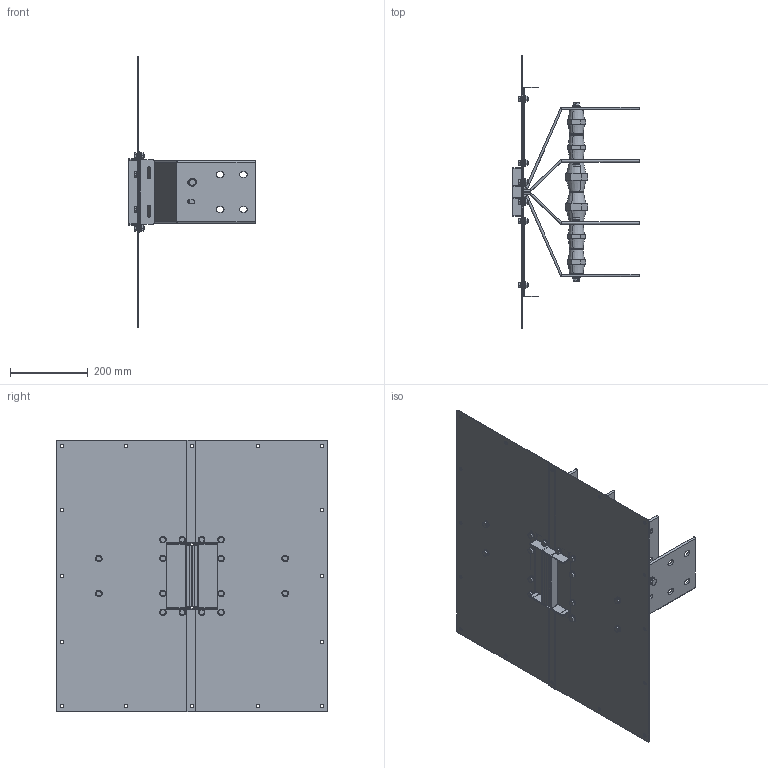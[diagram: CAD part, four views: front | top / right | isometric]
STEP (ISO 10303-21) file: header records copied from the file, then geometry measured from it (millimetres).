
FILE_DESCRIPTION(('CATIA V5 STEP','CAx-IF Rec.Pracs.--- Model Styling and Organization---1.5--- 2016-08-15','CAx-IF Rec.Pracs.---Supplemental Geometry---1.0---2011-11-01','CAx-IF Rec.Pracs.--- Composite Materials ---1.1---2010-07-15'),'2;1');
FILE_NAME('K:\COSCN 2011\32372311_RiduzioneSezioniBarre\03_Studio\__Modelli semplificati\XCP_UB semplificati per studi\XCP-HP_UB_4C_Pe_CRT_Assieme\Cu\XCP-HP_UB_4C_Pe_S_Assieme - 2000A Cu_CRT\XCP-HP_UB_4C_Pe_S_Assieme - 2000A Cu_CRT.stp','2025-05-12T11:48:38+00:00',('Utente Bticino'),('Bticino S.p.A.'),'CATIA Version 5-6 Release 2020 SP5','CATIA V5 STEP AP214 v2','none');
FILE_SCHEMA(('AUTOMOTIVE_DESIGN { 1 0 10303 214 1 1 1 1 }'));
Length unit declared in the file: millimetre
Products named in the file (20): XCP-HP_UB_4C_Pe_S_Assieme - 2000A Cu_CRT; XCP-HP_UB_4C_Pe_S_PaccoBarre_2000A Cu_CRT; XCP-HP_UB_4C_Pe_S_Lamiere_2000A Cu_CRT; Ass_M10x25.1; 00740025 M10x25 UNI5739; Rondella spac M10 UNI 1751; 00750005; 130006; 130184; 130006_1; 130184_1; 130006_2; 130006_3; 00750033 - RONDELLA PIANA 4.8 D.12 UNI 6592 ZB; 00750033 - RONDELLA PIANA 4.8 D.12 UNI 6592 ZB_1; 00750033 - RONDELLA PIANA 4.8 D.12 UNI 6592 ZB_2; Viteria UB H130; Ass Vite+dado M8; Steel hex flanged SCREW M12x16; Steel hex flanged NUT M8
Assembly tree (39 placements, depth 4):
  XCP-HP_UB_4C_Pe_S_Assieme - 2000A Cu_CRT
    XCP-HP_UB_4C_Pe_S_PaccoBarre_2000A Cu_CRT
    XCP-HP_UB_4C_Pe_S_Lamiere_2000A Cu_CRT
    Ass_M10x25.1  x6
      00740025 M10x25 UNI5739
      Rondella spac M10 UNI 1751
      00750005
    130006
    130184
    130006_1
    130184_1
    130006_2
    130006_3
    00750033 - RONDELLA PIANA 4.8 D.12 UNI 6592 ZB
    00750033 - RONDELLA PIANA 4.8 D.12 UNI 6592 ZB_1
    00750033 - RONDELLA PIANA 4.8 D.12 UNI 6592 ZB_2
    Viteria UB H130
      Ass Vite+dado M8  x16
        Steel hex flanged SCREW M12x16
        Steel hex flanged NUT M8
Bounding box: 325 x 700 x 700 mm (x, y, z)
Volume: 3348173.4 mm3; surface area: 1955972.2 mm2
Topology: 73 solids, 73 shells, 1652 faces, 3952 edges, 2484 vertices
Faces by surface type: plane 728, cylinder 484, cone 200, bspline 176, torus 64
Entity records: 23556 total; most frequent: CARTESIAN_POINT 5196, ORIENTED_EDGE 3896, DIRECTION 3082, EDGE_CURVE 1948, AXIS2_PLACEMENT_3D 1348, VERTEX_POINT 1244, VECTOR 1120, LINE 1120
